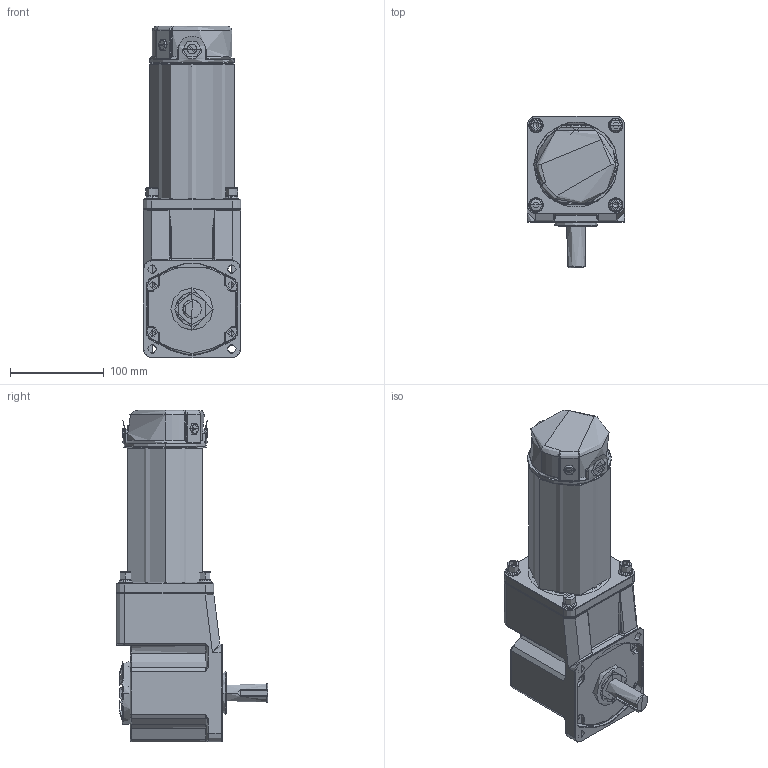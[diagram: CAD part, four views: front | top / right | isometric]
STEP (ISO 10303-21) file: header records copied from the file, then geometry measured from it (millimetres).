
FILE_DESCRIPTION (( 'STEP AP203' ), '1' );
FILE_NAME ('100-145»ú¿ÇRT.STEP', '2020-04-15T06:22:40', ( '' ), ( '' ), 'SwSTEP 2.0', 'SolidWorks 2018', '' );
FILE_SCHEMA (( 'CONFIG_CONTROL_DESIGN' ));
Length unit declared in the file: millimetre
Products named in the file (8): Z6D300W_1; PRT0001_1_1; 100-145儂褲RT; 6RT; H_1; JK_1; TAN_1; LUO_1
Assembly tree (9 placements, depth 3):
  100-145儂褲RT
    Z6D300W_1
      H_1
      LUO_1  x2
      TAN_1  x2
      JK_1
      PRT0001_1_1
    6RT
Bounding box: 104 x 161.5 x 353.5 mm (x, y, z)
Volume: 1572373.4 mm3; surface area: 356562.5 mm2
Topology: 30 solids, 32 shells, 2651 faces, 6786 edges, 4158 vertices
Faces by surface type: bspline 731, plane 709, cylinder 674, cone 537
Full cylindrical faces by diameter (mm): 0.6 x30, 2 x24, 4 x1, 36 x1, 51 x4, 62 x4
Entity records: 134893 total; most frequent: CARTESIAN_POINT 79276, ORIENTED_EDGE 13144, DIRECTION 9059, EDGE_CURVE 6572, VERTEX_POINT 4083, AXIS2_PLACEMENT_3D 3578, EDGE_LOOP 2713, B_SPLINE_CURVE_WITH_KNOTS 2670
